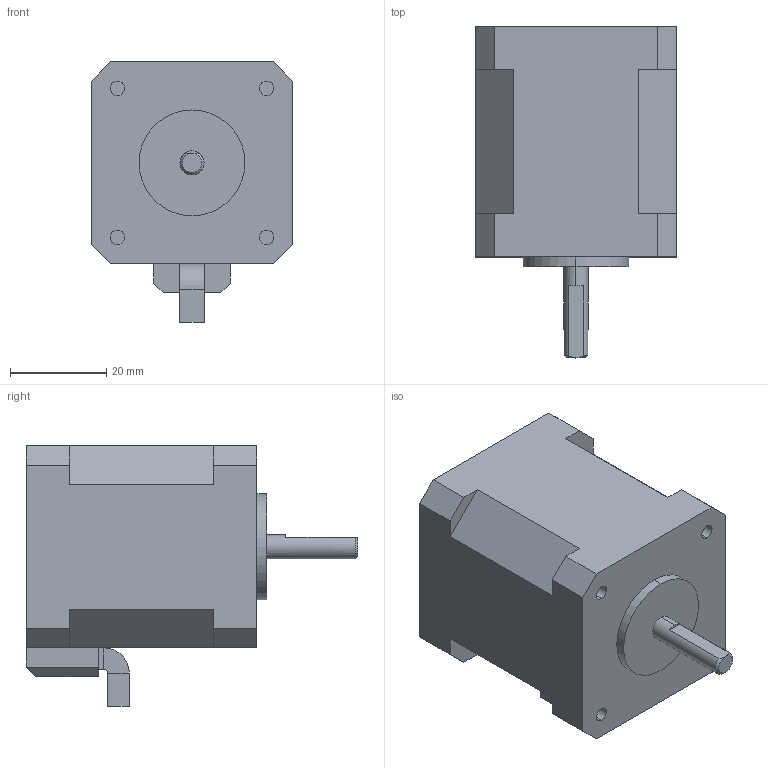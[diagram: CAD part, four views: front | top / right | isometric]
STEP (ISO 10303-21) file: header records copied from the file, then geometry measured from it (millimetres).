
FILE_DESCRIPTION (( 'STEP AP203' ), '1' );
FILE_NAME ('42BG48 贝格达、前径5长21扁15厚4.5、电缆线0.5m.STEP', '2024-10-13T14:09:24', ( '' ), ( '' ), 'SwSTEP 2.0', 'SolidWorks 2022', '' );
FILE_SCHEMA (( 'CONFIG_CONTROL_DESIGN' ));
Length unit declared in the file: millimetre
Products named in the file (1): 42BG48    贝格达、前径5长21扁15厚4.5、电缆线0.5m
Bounding box: 42 x 69 x 54.12 mm (x, y, z)
Volume: 82758.9 mm3; surface area: 12299.1 mm2
Topology: 1 solids, 1 shells, 67 faces, 165 edges, 106 vertices
Faces by surface type: plane 51, cylinder 14, cone 2
Entity records: 2040 total; most frequent: CARTESIAN_POINT 351, DIRECTION 331, ORIENTED_EDGE 330, EDGE_CURVE 165, LINE 131, VECTOR 131, VERTEX_POINT 106, AXIS2_PLACEMENT_3D 100
